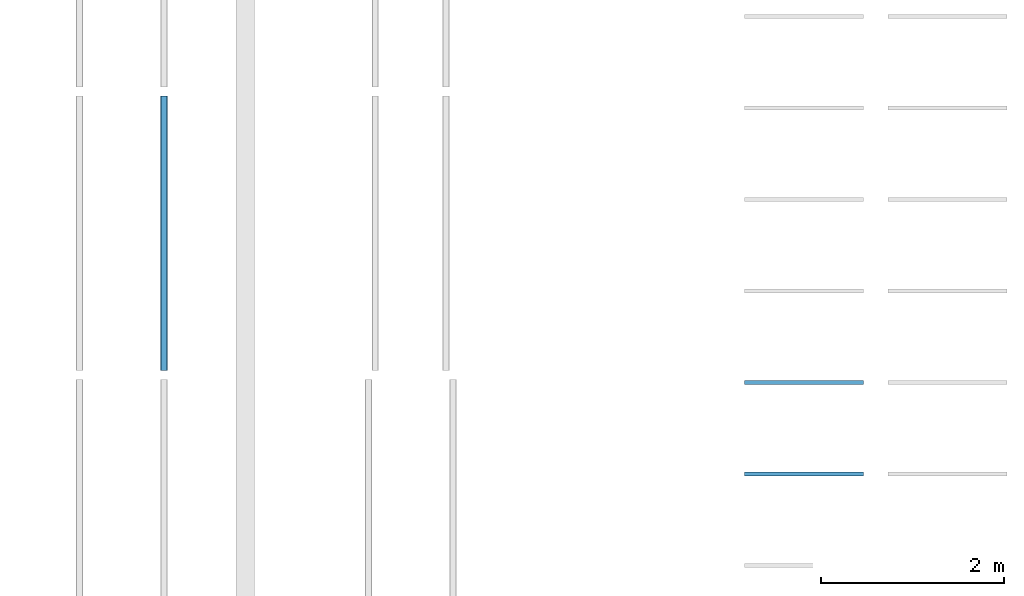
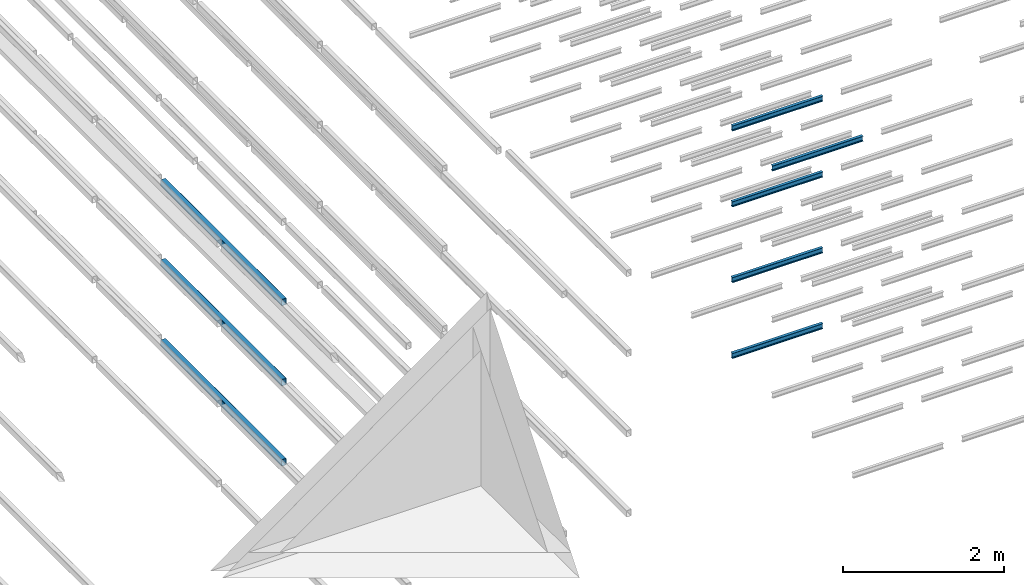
# One storey, part 34 of 290: 8 beams.
"""IFC2X3 building model written with IfcOpenShell, lengths in metres."""

from ifc_helpers import new_model, entity, si_unit, converted_unit, derived_unit, direction, frame, frame_2d, origin, place, context, subcontext, project, spatial, polyline, circle_curve, parameter, trimmed, segment, composite_curve, outline, extrude, material, type_object, element, save


model = new_model("IFC2X3")

# Units and contexts
model_context = context("Model", 3, precision=1e-05, world=origin(), true_north=direction((6.12303176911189e-17, 1.0)))
body_context = subcontext(model_context, "Body", "Model", "MODEL_VIEW")
ifc_project = project(units=[si_unit("LENGTHUNIT", "METRE"), si_unit("AREAUNIT", "SQUARE_METRE"), si_unit("VOLUMEUNIT", "CUBIC_METRE"), converted_unit("PLANEANGLEUNIT", "DEGREE", entity("IfcRatioMeasure", 0.0174532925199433), si_unit("PLANEANGLEUNIT", "RADIAN"), dimensions=[0, 0, 0, 0, 0, 0, 0]), si_unit("MASSUNIT", "GRAM", prefix="KILO"), derived_unit("MASSDENSITYUNIT", [(si_unit("MASSUNIT", "GRAM", prefix="KILO"), 1), (si_unit("LENGTHUNIT", "METRE"), -3)]), derived_unit("MOMENTOFINERTIAUNIT", [(si_unit("LENGTHUNIT", "METRE"), 4)]), si_unit("TIMEUNIT", "SECOND"), si_unit("FREQUENCYUNIT", "HERTZ"), si_unit("THERMODYNAMICTEMPERATUREUNIT", "DEGREE_CELSIUS"), derived_unit("THERMALTRANSMITTANCEUNIT", [(si_unit("MASSUNIT", "GRAM", prefix="KILO"), 1), (si_unit("THERMODYNAMICTEMPERATUREUNIT", "KELVIN"), -1), (si_unit("TIMEUNIT", "SECOND"), -3)]), derived_unit("VOLUMETRICFLOWRATEUNIT", [(si_unit("LENGTHUNIT", "METRE"), 3), (si_unit("TIMEUNIT", "SECOND"), -1)]), si_unit("ELECTRICCURRENTUNIT", "AMPERE"), si_unit("ELECTRICVOLTAGEUNIT", "VOLT"), si_unit("POWERUNIT", "WATT"), si_unit("FORCEUNIT", "NEWTON", prefix="KILO"), si_unit("ILLUMINANCEUNIT", "LUX"), si_unit("LUMINOUSFLUXUNIT", "LUMEN"), si_unit("LUMINOUSINTENSITYUNIT", "CANDELA"), derived_unit("USERDEFINED", [(si_unit("MASSUNIT", "GRAM", prefix="KILO"), -1), (si_unit("LENGTHUNIT", "METRE"), -2), (si_unit("TIMEUNIT", "SECOND"), 3), (si_unit("LUMINOUSFLUXUNIT", "LUMEN"), 1)]), derived_unit("LINEARVELOCITYUNIT", [(si_unit("LENGTHUNIT", "METRE"), 1), (si_unit("TIMEUNIT", "SECOND"), -1)]), si_unit("PRESSUREUNIT", "PASCAL"), derived_unit("USERDEFINED", [(si_unit("LENGTHUNIT", "METRE"), -2), (si_unit("MASSUNIT", "GRAM", prefix="KILO"), 1), (si_unit("TIMEUNIT", "SECOND"), -2)]), derived_unit("LINEARFORCEUNIT", [(si_unit("MASSUNIT", "GRAM", prefix="KILO"), 1), (si_unit("LENGTHUNIT", "METRE"), 1), (si_unit("TIMEUNIT", "SECOND"), -2), (si_unit("LENGTHUNIT", "METRE"), -1)]), derived_unit("PLANARFORCEUNIT", [(si_unit("MASSUNIT", "GRAM", prefix="KILO"), 1), (si_unit("LENGTHUNIT", "METRE"), 1), (si_unit("TIMEUNIT", "SECOND"), -2), (si_unit("LENGTHUNIT", "METRE"), -2)])], contexts=[model_context])

# Site, building, storey
site_placement = place(None, origin())
site = spatial("IfcSite", under=ifc_project, at=site_placement, Name="Default", CompositionType="ELEMENT")
building_placement = place(site_placement, origin())
building = spatial("IfcBuilding", under=site, at=building_placement, CompositionType="ELEMENT")
storey_placement = place(building_placement, frame((0.0, 0.0, 4.0)))
storey = spatial("IfcBuildingStorey", under=building, at=storey_placement, Name="01_OG", CompositionType="ELEMENT", Elevation=4.0)

# Beams
ifc_material_1 = material(Name="Metall - Baustahl S235 blau")
beam_type_1 = type_object("IfcBeamType", Name="RHS Träger (EN 10219-2):RHS 100 x 75 x 5", PredefinedType="NOTDEFINED")
beam_1_placement = place(storey_placement, frame((-178.465111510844, 27.148088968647, -1.2), z_axis=(0.0, 0.0, 1.0), x_axis=(0.0, 1.0, 0.0)))
element("IfcBeam", 1, at=beam_1_placement, inside=storey, type_object=beam_type_1, material=ifc_material_1, Name="RHS Träger (EN 10219-2):RHS 100 x 75 x 5", ObjectType="RHS Träger (EN 10219-2):RHS 100 x 75 x 5", context=body_context, shape_type="SweptSolid", body=[
    extrude(outline(composite_curve([segment(polyline([(-0.0400000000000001, -0.0374999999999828), (0.0400000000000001, -0.0374999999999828)]), True, "CONTINUOUS"), segment(trimmed(circle_curve(frame_2d((0.0400000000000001, -0.0274999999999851), x_axis=(0.0, 1.0)), 0.01), [parameter(180.0)], [parameter(270.0)], True, "PARAMETER"), True, "CONTINUOUS"), segment(polyline([(0.05, -0.0274999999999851), (0.05, 0.0274999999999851)]), True, "CONTINUOUS"), segment(trimmed(circle_curve(frame_2d((0.0400000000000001, 0.0274999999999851), x_axis=(0.0, 1.0)), 0.01), [parameter(270.0)], [parameter(4.07110999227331e-13)], True, "PARAMETER"), True, "CONTINUOUS"), segment(polyline([(0.0400000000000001, 0.0375000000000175), (-0.0400000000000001, 0.0375000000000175)]), True, "CONTINUOUS"), segment(trimmed(circle_curve(frame_2d((-0.0400000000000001, 0.0274999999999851), x_axis=(0.0, 1.0)), 0.01), [parameter(360.0)], [parameter(90.0000000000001)], True, "PARAMETER"), True, "CONTINUOUS"), segment(polyline([(-0.05, 0.0274999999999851), (-0.05, -0.0274999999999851)]), True, "CONTINUOUS"), segment(trimmed(circle_curve(frame_2d((-0.0400000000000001, -0.0274999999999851), x_axis=(0.0, 1.0)), 0.01), [parameter(90.0000000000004)], [parameter(180.0)], True, "PARAMETER"), True, "CONTINUOUS")], self_intersect=False), holes=[composite_curve([segment(trimmed(circle_curve(frame_2d((-0.0400000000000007, 0.0274999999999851), x_axis=(0.0, 1.0)), 0.005), [parameter(360.0)], [parameter(89.9999999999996)], True, "PARAMETER"), False, "CONTINUOUS"), segment(polyline([(-0.0400000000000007, 0.0325000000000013), (0.039999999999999, 0.0325000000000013)]), True, "CONTINUOUS"), segment(trimmed(circle_curve(frame_2d((0.039999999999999, 0.0274999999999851), x_axis=(0.0, 1.0)), 0.005), [parameter(270.0)], [parameter(0.0)], True, "PARAMETER"), False, "CONTINUOUS"), segment(polyline([(0.044999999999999, 0.0274999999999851), (0.044999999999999, -0.0274999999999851)]), True, "CONTINUOUS"), segment(trimmed(circle_curve(frame_2d((0.039999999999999, -0.0274999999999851), x_axis=(0.0, 1.0)), 0.005), [parameter(180.0)], [parameter(269.999999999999)], True, "PARAMETER"), False, "CONTINUOUS"), segment(polyline([(0.039999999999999, -0.0325000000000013), (-0.0400000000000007, -0.0325000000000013)]), True, "CONTINUOUS"), segment(trimmed(circle_curve(frame_2d((-0.0400000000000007, -0.0274999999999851), x_axis=(0.0, 1.0)), 0.005), [parameter(90.0000000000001)], [parameter(180.0)], True, "PARAMETER"), False, "CONTINUOUS"), segment(polyline([(-0.0450000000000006, -0.0274999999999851), (-0.0450000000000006, 0.0274999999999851)]), True, "CONTINUOUS")], self_intersect=False)]), frame((9.99999999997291e-05, -0.0375000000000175, -0.0500000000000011), z_axis=(1.0, 0.0, 0.0), x_axis=(0.0, 0.0, -1.0)), (0.0, 0.0, 1.0), 2.9998),
])
beam_2_placement = place(storey_placement, frame((-178.465111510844, 27.148088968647, 0.0150000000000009), z_axis=(0.0, 0.0, 1.0), x_axis=(0.0, 1.0, 0.0)))
element("IfcBeam", 2, at=beam_2_placement, inside=storey, type_object=beam_type_1, material=ifc_material_1, Name="RHS Träger (EN 10219-2):RHS 100 x 75 x 5", ObjectType="RHS Träger (EN 10219-2):RHS 100 x 75 x 5", context=body_context, shape_type="SweptSolid", body=[
    extrude(outline(composite_curve([segment(polyline([(-0.0400000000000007, -0.0374999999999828), (0.0399999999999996, -0.0374999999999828)]), True, "CONTINUOUS"), segment(trimmed(circle_curve(frame_2d((0.0399999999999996, -0.0274999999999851), x_axis=(0.0, 1.0)), 0.01), [parameter(180.0)], [parameter(270.0)], True, "PARAMETER"), True, "CONTINUOUS"), segment(polyline([(0.0499999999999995, -0.0274999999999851), (0.0499999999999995, 0.0274999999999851)]), True, "CONTINUOUS"), segment(trimmed(circle_curve(frame_2d((0.0399999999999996, 0.0274999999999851), x_axis=(0.0, 1.0)), 0.01), [parameter(270.0)], [parameter(4.07110999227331e-13)], True, "PARAMETER"), True, "CONTINUOUS"), segment(polyline([(0.0399999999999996, 0.0375000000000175), (-0.0400000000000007, 0.0375000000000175)]), True, "CONTINUOUS"), segment(trimmed(circle_curve(frame_2d((-0.0400000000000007, 0.0274999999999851), x_axis=(0.0, 1.0)), 0.01), [parameter(360.0)], [parameter(90.0000000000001)], True, "PARAMETER"), True, "CONTINUOUS"), segment(polyline([(-0.0500000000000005, 0.0274999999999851), (-0.0500000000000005, -0.0274999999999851)]), True, "CONTINUOUS"), segment(trimmed(circle_curve(frame_2d((-0.0400000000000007, -0.0274999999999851), x_axis=(0.0, 1.0)), 0.01), [parameter(90.0000000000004)], [parameter(180.0)], True, "PARAMETER"), True, "CONTINUOUS")], self_intersect=False), holes=[composite_curve([segment(trimmed(circle_curve(frame_2d((-0.0400000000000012, 0.0274999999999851), x_axis=(0.0, 1.0)), 0.005), [parameter(360.0)], [parameter(89.9999999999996)], True, "PARAMETER"), False, "CONTINUOUS"), segment(polyline([(-0.0400000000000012, 0.0325000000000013), (0.0399999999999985, 0.0325000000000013)]), True, "CONTINUOUS"), segment(trimmed(circle_curve(frame_2d((0.0399999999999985, 0.0274999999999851), x_axis=(0.0, 1.0)), 0.005), [parameter(270.0)], [parameter(0.0)], True, "PARAMETER"), False, "CONTINUOUS"), segment(polyline([(0.0449999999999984, 0.0274999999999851), (0.0449999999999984, -0.0274999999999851)]), True, "CONTINUOUS"), segment(trimmed(circle_curve(frame_2d((0.0399999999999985, -0.0274999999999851), x_axis=(0.0, 1.0)), 0.005), [parameter(180.0)], [parameter(269.999999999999)], True, "PARAMETER"), False, "CONTINUOUS"), segment(polyline([(0.0399999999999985, -0.0325000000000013), (-0.0400000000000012, -0.0325000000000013)]), True, "CONTINUOUS"), segment(trimmed(circle_curve(frame_2d((-0.0400000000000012, -0.0274999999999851), x_axis=(0.0, 1.0)), 0.005), [parameter(90.0000000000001)], [parameter(180.0)], True, "PARAMETER"), False, "CONTINUOUS"), segment(polyline([(-0.0450000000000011, -0.0274999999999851), (-0.0450000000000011, 0.0274999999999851)]), True, "CONTINUOUS")], self_intersect=False)]), frame((9.99999999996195e-05, -0.0375000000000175, -0.0500000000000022), z_axis=(1.0, 0.0, 0.0), x_axis=(0.0, 0.0, -1.0)), (0.0, 0.0, 1.0), 2.9998),
])
beam_3_placement = place(storey_placement, frame((-178.465111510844, 27.148088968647, 1.23), z_axis=(0.0, 0.0, 1.0), x_axis=(0.0, 1.0, 0.0)))
element("IfcBeam", 3, at=beam_3_placement, inside=storey, type_object=beam_type_1, material=ifc_material_1, Name="RHS Träger (EN 10219-2):RHS 100 x 75 x 5", ObjectType="RHS Träger (EN 10219-2):RHS 100 x 75 x 5", context=body_context, shape_type="SweptSolid", body=[
    extrude(outline(composite_curve([segment(polyline([(-0.0399999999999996, -0.0374999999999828), (0.0399999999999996, -0.0374999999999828)]), True, "CONTINUOUS"), segment(trimmed(circle_curve(frame_2d((0.0399999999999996, -0.0274999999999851), x_axis=(0.0, 1.0)), 0.01), [parameter(180.0)], [parameter(270.0)], True, "PARAMETER"), True, "CONTINUOUS"), segment(polyline([(0.0500000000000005, -0.0274999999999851), (0.0500000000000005, 0.0274999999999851)]), True, "CONTINUOUS"), segment(trimmed(circle_curve(frame_2d((0.0399999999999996, 0.0274999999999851), x_axis=(0.0, 1.0)), 0.01), [parameter(270.0)], [parameter(4.07110999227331e-13)], True, "PARAMETER"), True, "CONTINUOUS"), segment(polyline([(0.0399999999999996, 0.0375000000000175), (-0.0399999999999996, 0.0375000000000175)]), True, "CONTINUOUS"), segment(trimmed(circle_curve(frame_2d((-0.0399999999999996, 0.0274999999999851), x_axis=(0.0, 1.0)), 0.01), [parameter(360.0)], [parameter(90.0000000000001)], True, "PARAMETER"), True, "CONTINUOUS"), segment(polyline([(-0.0499999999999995, 0.0274999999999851), (-0.0499999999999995, -0.0274999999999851)]), True, "CONTINUOUS"), segment(trimmed(circle_curve(frame_2d((-0.0399999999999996, -0.0274999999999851), x_axis=(0.0, 1.0)), 0.01), [parameter(90.0000000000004)], [parameter(180.0)], True, "PARAMETER"), True, "CONTINUOUS")], self_intersect=False), holes=[composite_curve([segment(trimmed(circle_curve(frame_2d((-0.0400000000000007, 0.0274999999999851), x_axis=(0.0, 1.0)), 0.005), [parameter(360.0)], [parameter(89.9999999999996)], True, "PARAMETER"), False, "CONTINUOUS"), segment(polyline([(-0.0400000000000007, 0.0325000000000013), (0.0399999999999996, 0.0325000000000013)]), True, "CONTINUOUS"), segment(trimmed(circle_curve(frame_2d((0.0399999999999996, 0.0274999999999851), x_axis=(0.0, 1.0)), 0.005), [parameter(270.0)], [parameter(0.0)], True, "PARAMETER"), False, "CONTINUOUS"), segment(polyline([(0.0449999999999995, 0.0274999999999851), (0.0449999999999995, -0.0274999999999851)]), True, "CONTINUOUS"), segment(trimmed(circle_curve(frame_2d((0.0399999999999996, -0.0274999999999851), x_axis=(0.0, 1.0)), 0.005), [parameter(180.0)], [parameter(269.999999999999)], True, "PARAMETER"), False, "CONTINUOUS"), segment(polyline([(0.0399999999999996, -0.0325000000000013), (-0.0400000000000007, -0.0325000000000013)]), True, "CONTINUOUS"), segment(trimmed(circle_curve(frame_2d((-0.0400000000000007, -0.0274999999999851), x_axis=(0.0, 1.0)), 0.005), [parameter(90.0000000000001)], [parameter(180.0)], True, "PARAMETER"), False, "CONTINUOUS"), segment(polyline([(-0.0450000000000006, -0.0274999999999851), (-0.0450000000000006, 0.0274999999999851)]), True, "CONTINUOUS")], self_intersect=False)]), frame((9.99999999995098e-05, -0.0375000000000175, -0.0500000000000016), z_axis=(1.0, 0.0, 0.0), x_axis=(0.0, 0.0, -1.0)), (0.0, 0.0, 1.0), 2.9998),
])
ifc_material_2 = material(Name="Metall - Baustahl S235")
beam_type_2 = type_object("IfcBeamType", Name="IPN Träger:IPN 80", PredefinedType="NOTDEFINED")
beam_4_placement = place(storey_placement, frame((-170.780111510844, 27.036588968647, -1.73), z_axis=(0.0, 0.0, 1.0), x_axis=(-1.0, 0.0, 0.0)))
element("IfcBeam", 4, at=beam_4_placement, inside=storey, type_object=beam_type_2, material=ifc_material_2, Name="IPN Träger:IPN 80", ObjectType="IPN Träger:IPN 80", context=body_context, shape_type="SweptSolid", body=[
    extrude(outline(composite_curve([segment(polyline([(0.0375704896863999, -0.0210000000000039), (0.0399999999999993, -0.0210000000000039)]), True, "CONTINUOUS"), segment(polyline([(0.0399999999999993, -0.0210000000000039), (0.0399999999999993, 0.0209999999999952)]), True, "CONTINUOUS"), segment(polyline([(0.0399999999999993, 0.0209999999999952), (0.0375704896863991, 0.0209999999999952)]), True, "CONTINUOUS"), segment(trimmed(circle_curve(frame_2d((0.0375704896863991, 0.0186999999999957), x_axis=(0.0, 1.0)), 0.00230000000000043), [parameter(0.0)], [parameter(82.0299999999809)], True, "PARAMETER"), True, "CONTINUOUS"), segment(polyline([(0.0352927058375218, 0.0190189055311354), (0.0333732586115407, 0.00530924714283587)]), True, "CONTINUOUS"), segment(trimmed(circle_curve(frame_2d((0.0295109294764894, 0.00584999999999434), x_axis=(0.990340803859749, -0.138654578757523)), 0.00389999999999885), [parameter(277.969999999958)], [parameter(0.0)], True, "PARAMETER"), False, "CONTINUOUS"), segment(polyline([(0.0295109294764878, 0.00194999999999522), (-0.0295109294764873, 0.00194999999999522)]), True, "CONTINUOUS"), segment(trimmed(circle_curve(frame_2d((-0.0295109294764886, 0.00584999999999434), x_axis=(0.0, -1.0)), 0.00389999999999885), [parameter(277.969999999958)], [parameter(0.0)], True, "PARAMETER"), False, "CONTINUOUS"), segment(polyline([(-0.0333732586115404, 0.0053092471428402), (-0.0352927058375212, 0.0190189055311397)]), True, "CONTINUOUS"), segment(trimmed(circle_curve(frame_2d((-0.0375704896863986, 0.0186999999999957), x_axis=(0.990340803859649, 0.138654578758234)), 0.00230000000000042), [parameter(0.0)], [parameter(82.0299999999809)], True, "PARAMETER"), True, "CONTINUOUS"), segment(polyline([(-0.0375704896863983, 0.0209999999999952), (-0.0400000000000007, 0.0209999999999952)]), True, "CONTINUOUS"), segment(polyline([(-0.0400000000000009, 0.0209999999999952), (-0.0400000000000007, -0.0210000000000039)]), True, "CONTINUOUS"), segment(polyline([(-0.0400000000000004, -0.0210000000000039), (-0.0375704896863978, -0.0210000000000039)]), True, "CONTINUOUS"), segment(trimmed(circle_curve(frame_2d((-0.0375704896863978, -0.0187000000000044), x_axis=(0.0, -1.0)), 0.00230000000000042), [parameter(0.0)], [parameter(82.0299999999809)], True, "PARAMETER"), True, "CONTINUOUS"), segment(polyline([(-0.0352927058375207, -0.019018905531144), (-0.0333732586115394, -0.00530924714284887)]), True, "CONTINUOUS"), segment(trimmed(circle_curve(frame_2d((-0.0295109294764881, -0.005850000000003), x_axis=(-0.990340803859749, 0.138654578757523)), 0.00389999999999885), [parameter(277.969999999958)], [parameter(0.0)], True, "PARAMETER"), False, "CONTINUOUS"), segment(polyline([(-0.0295109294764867, -0.00195000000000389), (0.0295109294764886, -0.00195000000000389)]), True, "CONTINUOUS"), segment(trimmed(circle_curve(frame_2d((0.0295109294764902, -0.005850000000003), x_axis=(0.0, 1.0)), 0.0038999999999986), [parameter(277.969999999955)], [parameter(0.0)], True, "PARAMETER"), False, "CONTINUOUS"), segment(polyline([(0.0333732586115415, -0.00530924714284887), (0.0352927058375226, -0.0190189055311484)]), True, "CONTINUOUS"), segment(trimmed(circle_curve(frame_2d((0.0375704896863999, -0.0187000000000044), x_axis=(-0.990340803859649, -0.138654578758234)), 0.00230000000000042), [parameter(0.0)], [parameter(82.0299999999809)], True, "PARAMETER"), True, "CONTINUOUS")], self_intersect=False)), frame((0.00010000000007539, 0.0210000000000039, -0.0400000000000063), z_axis=(1.0, 0.0, 0.0), x_axis=(0.0, 0.0, -1.0)), (0.0, 0.0, 1.0), 1.29990000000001),
])
beam_5_placement = place(storey_placement, frame((-170.780111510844, 27.036588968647, -0.579999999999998), z_axis=(0.0, 0.0, 1.0), x_axis=(-1.0, 0.0, 0.0)))
element("IfcBeam", 5, at=beam_5_placement, inside=storey, type_object=beam_type_2, material=ifc_material_2, Name="IPN Träger:IPN 80", ObjectType="IPN Träger:IPN 80", context=body_context, shape_type="SweptSolid", body=[
    extrude(outline(composite_curve([segment(polyline([(0.0375704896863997, -0.0210000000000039), (0.039999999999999, -0.0210000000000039)]), True, "CONTINUOUS"), segment(polyline([(0.039999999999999, -0.0210000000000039), (0.039999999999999, 0.0209999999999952)]), True, "CONTINUOUS"), segment(polyline([(0.039999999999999, 0.0209999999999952), (0.0375704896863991, 0.0209999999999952)]), True, "CONTINUOUS"), segment(trimmed(circle_curve(frame_2d((0.0375704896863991, 0.0186999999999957), x_axis=(0.0, 1.0)), 0.00230000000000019), [parameter(0.0)], [parameter(82.02999999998)], True, "PARAMETER"), True, "CONTINUOUS"), segment(polyline([(0.0352927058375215, 0.0190189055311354), (0.0333732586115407, 0.00530924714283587)]), True, "CONTINUOUS"), segment(trimmed(circle_curve(frame_2d((0.0295109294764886, 0.00584999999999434), x_axis=(0.990340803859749, -0.138654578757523)), 0.00389999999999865), [parameter(277.969999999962)], [parameter(0.0)], True, "PARAMETER"), False, "CONTINUOUS"), segment(polyline([(0.0295109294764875, 0.00194999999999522), (-0.0295109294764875, 0.00194999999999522)]), True, "CONTINUOUS"), segment(trimmed(circle_curve(frame_2d((-0.0295109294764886, 0.00584999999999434), x_axis=(0.0, -1.0)), 0.00389999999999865), [parameter(277.969999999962)], [parameter(0.0)], True, "PARAMETER"), False, "CONTINUOUS"), segment(polyline([(-0.0333732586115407, 0.0053092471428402), (-0.0352927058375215, 0.0190189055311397)]), True, "CONTINUOUS"), segment(trimmed(circle_curve(frame_2d((-0.0375704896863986, 0.0186999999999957), x_axis=(0.990340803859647, 0.138654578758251)), 0.00230000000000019), [parameter(0.0)], [parameter(82.02999999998)], True, "PARAMETER"), True, "CONTINUOUS"), segment(polyline([(-0.0375704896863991, 0.0209999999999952), (-0.0400000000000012, 0.0209999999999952)]), True, "CONTINUOUS"), segment(polyline([(-0.0400000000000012, 0.0209999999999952), (-0.0400000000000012, -0.0210000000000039)]), True, "CONTINUOUS"), segment(polyline([(-0.0400000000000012, -0.0210000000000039), (-0.037570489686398, -0.0210000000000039)]), True, "CONTINUOUS"), segment(trimmed(circle_curve(frame_2d((-0.037570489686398, -0.0187000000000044), x_axis=(0.0, -1.0)), 0.00230000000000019), [parameter(0.0)], [parameter(82.02999999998)], True, "PARAMETER"), True, "CONTINUOUS"), segment(polyline([(-0.035292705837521, -0.019018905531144), (-0.0333732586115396, -0.00530924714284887)]), True, "CONTINUOUS"), segment(trimmed(circle_curve(frame_2d((-0.0295109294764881, -0.005850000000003), x_axis=(-0.990340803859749, 0.138654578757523)), 0.00389999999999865), [parameter(277.969999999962)], [parameter(0.0)], True, "PARAMETER"), False, "CONTINUOUS"), segment(polyline([(-0.029510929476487, -0.00195000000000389), (0.0295109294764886, -0.00195000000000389)]), True, "CONTINUOUS"), segment(trimmed(circle_curve(frame_2d((0.0295109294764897, -0.005850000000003), x_axis=(0.0, 1.0)), 0.00389999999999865), [parameter(277.969999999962)], [parameter(0.0)], True, "PARAMETER"), False, "CONTINUOUS"), segment(polyline([(0.0333732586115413, -0.00530924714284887), (0.0352927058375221, -0.0190189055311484)]), True, "CONTINUOUS"), segment(trimmed(circle_curve(frame_2d((0.0375704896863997, -0.0187000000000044), x_axis=(-0.990340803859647, -0.138654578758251)), 0.00230000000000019), [parameter(0.0)], [parameter(82.02999999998)], True, "PARAMETER"), True, "CONTINUOUS")], self_intersect=False)), frame((0.000100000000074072, 0.0210000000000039, -0.0400000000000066), z_axis=(1.0, 0.0, 0.0), x_axis=(0.0, 0.0, -1.0)), (0.0, 0.0, 1.0), 1.29990000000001),
])
beam_6_placement = place(storey_placement, frame((-170.780111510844, 27.036588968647, 0.570000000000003), z_axis=(0.0, 0.0, 1.0), x_axis=(-1.0, 0.0, 0.0)))
element("IfcBeam", 6, at=beam_6_placement, inside=storey, type_object=beam_type_2, material=ifc_material_2, Name="IPN Träger:IPN 80", ObjectType="IPN Träger:IPN 80", context=body_context, shape_type="SweptSolid", body=[
    extrude(outline(composite_curve([segment(polyline([(0.0375704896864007, -0.0210000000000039), (0.0400000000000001, -0.0210000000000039)]), True, "CONTINUOUS"), segment(polyline([(0.0400000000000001, -0.0210000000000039), (0.0400000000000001, 0.0209999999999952)]), True, "CONTINUOUS"), segment(polyline([(0.0400000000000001, 0.0209999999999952), (0.0375704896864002, 0.0209999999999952)]), True, "CONTINUOUS"), segment(trimmed(circle_curve(frame_2d((0.0375704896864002, 0.0186999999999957), x_axis=(0.0, 1.0)), 0.00230000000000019), [parameter(0.0)], [parameter(82.02999999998)], True, "PARAMETER"), True, "CONTINUOUS"), segment(polyline([(0.0352927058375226, 0.0190189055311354), (0.0333732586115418, 0.00530924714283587)]), True, "CONTINUOUS"), segment(trimmed(circle_curve(frame_2d((0.0295109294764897, 0.00584999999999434), x_axis=(0.990340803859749, -0.138654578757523)), 0.00389999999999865), [parameter(277.969999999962)], [parameter(0.0)], True, "PARAMETER"), False, "CONTINUOUS"), segment(polyline([(0.0295109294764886, 0.00194999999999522), (-0.0295109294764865, 0.00194999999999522)]), True, "CONTINUOUS"), segment(trimmed(circle_curve(frame_2d((-0.0295109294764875, 0.00584999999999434), x_axis=(0.0, -1.0)), 0.00389999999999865), [parameter(277.969999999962)], [parameter(0.0)], True, "PARAMETER"), False, "CONTINUOUS"), segment(polyline([(-0.0333732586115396, 0.0053092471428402), (-0.0352927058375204, 0.0190189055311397)]), True, "CONTINUOUS"), segment(trimmed(circle_curve(frame_2d((-0.0375704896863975, 0.0186999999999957), x_axis=(0.990340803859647, 0.138654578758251)), 0.00230000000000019), [parameter(0.0)], [parameter(82.02999999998)], True, "PARAMETER"), True, "CONTINUOUS"), segment(polyline([(-0.037570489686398, 0.0209999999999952), (-0.0400000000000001, 0.0209999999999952)]), True, "CONTINUOUS"), segment(polyline([(-0.0400000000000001, 0.0209999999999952), (-0.0400000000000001, -0.0210000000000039)]), True, "CONTINUOUS"), segment(polyline([(-0.0400000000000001, -0.0210000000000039), (-0.0375704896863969, -0.0210000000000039)]), True, "CONTINUOUS"), segment(trimmed(circle_curve(frame_2d((-0.0375704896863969, -0.0187000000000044), x_axis=(0.0, -1.0)), 0.00230000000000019), [parameter(0.0)], [parameter(82.02999999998)], True, "PARAMETER"), True, "CONTINUOUS"), segment(polyline([(-0.0352927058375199, -0.019018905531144), (-0.0333732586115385, -0.00530924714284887)]), True, "CONTINUOUS"), segment(trimmed(circle_curve(frame_2d((-0.029510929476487, -0.005850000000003), x_axis=(-0.990340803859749, 0.138654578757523)), 0.00389999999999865), [parameter(277.969999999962)], [parameter(0.0)], True, "PARAMETER"), False, "CONTINUOUS"), segment(polyline([(-0.0295109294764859, -0.00195000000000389), (0.0295109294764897, -0.00195000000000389)]), True, "CONTINUOUS"), segment(trimmed(circle_curve(frame_2d((0.0295109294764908, -0.005850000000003), x_axis=(0.0, 1.0)), 0.00389999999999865), [parameter(277.969999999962)], [parameter(0.0)], True, "PARAMETER"), False, "CONTINUOUS"), segment(polyline([(0.0333732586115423, -0.00530924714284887), (0.0352927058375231, -0.0190189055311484)]), True, "CONTINUOUS"), segment(trimmed(circle_curve(frame_2d((0.0375704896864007, -0.0187000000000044), x_axis=(-0.990340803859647, -0.138654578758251)), 0.00230000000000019), [parameter(0.0)], [parameter(82.02999999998)], True, "PARAMETER"), True, "CONTINUOUS")], self_intersect=False)), frame((0.000100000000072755, 0.0210000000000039, -0.0400000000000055), z_axis=(1.0, 0.0, 0.0), x_axis=(0.0, 0.0, -1.0)), (0.0, 0.0, 1.0), 1.29990000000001),
])
beam_7_placement = place(storey_placement, frame((-170.780111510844, 27.036588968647, 1.72), z_axis=(0.0, 0.0, 1.0), x_axis=(-1.0, 0.0, 0.0)))
element("IfcBeam", 7, at=beam_7_placement, inside=storey, type_object=beam_type_2, material=ifc_material_2, Name="IPN Träger:IPN 80", ObjectType="IPN Träger:IPN 80", context=body_context, shape_type="SweptSolid", body=[
    extrude(outline(composite_curve([segment(polyline([(0.0375704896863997, -0.0210000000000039), (0.0399999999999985, -0.0210000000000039)]), True, "CONTINUOUS"), segment(polyline([(0.0399999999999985, -0.0210000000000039), (0.0399999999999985, 0.0209999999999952)]), True, "CONTINUOUS"), segment(polyline([(0.0399999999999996, 0.0209999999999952), (0.0375704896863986, 0.0209999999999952)]), True, "CONTINUOUS"), segment(trimmed(circle_curve(frame_2d((0.0375704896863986, 0.0186999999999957), x_axis=(0.0, 1.0)), 0.00230000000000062), [parameter(0.0)], [parameter(82.0299999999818)], True, "PARAMETER"), True, "CONTINUOUS"), segment(polyline([(0.0352927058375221, 0.0190189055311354), (0.0333732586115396, 0.00530924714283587)]), True, "CONTINUOUS"), segment(trimmed(circle_curve(frame_2d((0.0295109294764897, 0.00584999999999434), x_axis=(0.990340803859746, -0.138654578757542)), 0.00389999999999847), [parameter(277.969999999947)], [parameter(0.0)], True, "PARAMETER"), False, "CONTINUOUS"), segment(polyline([(0.0295109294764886, 0.00194999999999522), (-0.0295109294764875, 0.00194999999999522)]), True, "CONTINUOUS"), segment(trimmed(circle_curve(frame_2d((-0.0295109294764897, 0.00584999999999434), x_axis=(0.0, -1.0)), 0.00389999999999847), [parameter(277.969999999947)], [parameter(0.0)], True, "PARAMETER"), False, "CONTINUOUS"), segment(polyline([(-0.0333732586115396, 0.0053092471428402), (-0.0352927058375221, 0.0190189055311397)]), True, "CONTINUOUS"), segment(trimmed(circle_curve(frame_2d((-0.0375704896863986, 0.0186999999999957), x_axis=(0.990340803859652, 0.138654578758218)), 0.00230000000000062), [parameter(0.0)], [parameter(82.0299999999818)], True, "PARAMETER"), True, "CONTINUOUS"), segment(polyline([(-0.0375704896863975, 0.0209999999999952), (-0.0400000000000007, 0.0209999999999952)]), True, "CONTINUOUS"), segment(polyline([(-0.0400000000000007, 0.0209999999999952), (-0.0400000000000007, -0.0210000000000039)]), True, "CONTINUOUS"), segment(polyline([(-0.0400000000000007, -0.0210000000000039), (-0.0375704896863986, -0.0210000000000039)]), True, "CONTINUOUS"), segment(trimmed(circle_curve(frame_2d((-0.0375704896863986, -0.0187000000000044), x_axis=(0.0, -1.0)), 0.00230000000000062), [parameter(0.0)], [parameter(82.0299999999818)], True, "PARAMETER"), True, "CONTINUOUS"), segment(polyline([(-0.035292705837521, -0.019018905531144), (-0.0333732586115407, -0.00530924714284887)]), True, "CONTINUOUS"), segment(trimmed(circle_curve(frame_2d((-0.0295109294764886, -0.005850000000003), x_axis=(-0.990340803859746, 0.138654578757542)), 0.00389999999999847), [parameter(277.969999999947)], [parameter(0.0)], True, "PARAMETER"), False, "CONTINUOUS"), segment(polyline([(-0.0295109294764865, -0.00195000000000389), (0.0295109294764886, -0.00195000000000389)]), True, "CONTINUOUS"), segment(trimmed(circle_curve(frame_2d((0.0295109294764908, -0.005850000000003), x_axis=(0.0, 1.0)), 0.00389999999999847), [parameter(277.969999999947)], [parameter(0.0)], True, "PARAMETER"), False, "CONTINUOUS"), segment(polyline([(0.0333732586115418, -0.00530924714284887), (0.0352927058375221, -0.0190189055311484)]), True, "CONTINUOUS"), segment(trimmed(circle_curve(frame_2d((0.0375704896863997, -0.0187000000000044), x_axis=(-0.990340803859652, -0.138654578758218)), 0.00230000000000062), [parameter(0.0)], [parameter(82.0299999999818)], True, "PARAMETER"), True, "CONTINUOUS")], self_intersect=False)), frame((0.000100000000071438, 0.0210000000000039, -0.040000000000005), z_axis=(1.0, 0.0, 0.0), x_axis=(0.0, 0.0, -1.0)), (0.0, 0.0, 1.0), 1.29990000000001),
])
beam_8_placement = place(storey_placement, frame((-170.780111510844, 26.036588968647, 1.72), z_axis=(0.0, 0.0, 1.0), x_axis=(-1.0, 0.0, 0.0)))
element("IfcBeam", 8, at=beam_8_placement, inside=storey, type_object=beam_type_2, material=ifc_material_2, Name="IPN Träger:IPN 80", ObjectType="IPN Träger:IPN 80", context=body_context, shape_type="SweptSolid", body=[
    extrude(outline(composite_curve([segment(polyline([(0.0375704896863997, -0.0209999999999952), (0.0399999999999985, -0.0209999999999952)]), True, "CONTINUOUS"), segment(polyline([(0.0399999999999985, -0.0209999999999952), (0.0399999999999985, 0.0210000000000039)]), True, "CONTINUOUS"), segment(polyline([(0.0399999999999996, 0.0210000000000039), (0.0375704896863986, 0.0210000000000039)]), True, "CONTINUOUS"), segment(trimmed(circle_curve(frame_2d((0.0375704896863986, 0.0187000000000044), x_axis=(0.0, 1.0)), 0.00230000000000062), [parameter(0.0)], [parameter(82.0299999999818)], True, "PARAMETER"), True, "CONTINUOUS"), segment(polyline([(0.0352927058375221, 0.019018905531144), (0.0333732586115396, 0.00530924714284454)]), True, "CONTINUOUS"), segment(trimmed(circle_curve(frame_2d((0.0295109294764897, 0.005850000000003), x_axis=(0.990340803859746, -0.138654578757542)), 0.00389999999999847), [parameter(277.969999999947)], [parameter(0.0)], True, "PARAMETER"), False, "CONTINUOUS"), segment(polyline([(0.0295109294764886, 0.00195000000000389), (-0.0295109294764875, 0.00195000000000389)]), True, "CONTINUOUS"), segment(trimmed(circle_curve(frame_2d((-0.0295109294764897, 0.005850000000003), x_axis=(0.0, -1.0)), 0.00389999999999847), [parameter(277.969999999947)], [parameter(0.0)], True, "PARAMETER"), False, "CONTINUOUS"), segment(polyline([(-0.0333732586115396, 0.00530924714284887), (-0.0352927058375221, 0.0190189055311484)]), True, "CONTINUOUS"), segment(trimmed(circle_curve(frame_2d((-0.0375704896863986, 0.0187000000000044), x_axis=(0.990340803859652, 0.138654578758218)), 0.00230000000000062), [parameter(0.0)], [parameter(82.0299999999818)], True, "PARAMETER"), True, "CONTINUOUS"), segment(polyline([(-0.0375704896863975, 0.0210000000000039), (-0.0400000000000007, 0.0210000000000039)]), True, "CONTINUOUS"), segment(polyline([(-0.0400000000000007, 0.0210000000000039), (-0.0400000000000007, -0.0209999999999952)]), True, "CONTINUOUS"), segment(polyline([(-0.0400000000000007, -0.0209999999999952), (-0.0375704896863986, -0.0209999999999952)]), True, "CONTINUOUS"), segment(trimmed(circle_curve(frame_2d((-0.0375704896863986, -0.0186999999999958), x_axis=(0.0, -1.0)), 0.00230000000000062), [parameter(0.0)], [parameter(82.0299999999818)], True, "PARAMETER"), True, "CONTINUOUS"), segment(polyline([(-0.035292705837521, -0.0190189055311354), (-0.0333732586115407, -0.00530924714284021)]), True, "CONTINUOUS"), segment(trimmed(circle_curve(frame_2d((-0.0295109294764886, -0.00584999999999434), x_axis=(-0.990340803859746, 0.138654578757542)), 0.00389999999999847), [parameter(277.969999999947)], [parameter(0.0)], True, "PARAMETER"), False, "CONTINUOUS"), segment(polyline([(-0.0295109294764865, -0.00194999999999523), (0.0295109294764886, -0.00194999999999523)]), True, "CONTINUOUS"), segment(trimmed(circle_curve(frame_2d((0.0295109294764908, -0.00584999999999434), x_axis=(0.0, 1.0)), 0.00389999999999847), [parameter(277.969999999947)], [parameter(0.0)], True, "PARAMETER"), False, "CONTINUOUS"), segment(polyline([(0.0333732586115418, -0.00530924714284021), (0.0352927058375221, -0.0190189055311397)]), True, "CONTINUOUS"), segment(trimmed(circle_curve(frame_2d((0.0375704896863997, -0.0186999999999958), x_axis=(-0.990340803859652, -0.138654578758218)), 0.00230000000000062), [parameter(0.0)], [parameter(82.0299999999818)], True, "PARAMETER"), True, "CONTINUOUS")], self_intersect=False)), frame((0.000100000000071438, 0.0209999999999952, -0.040000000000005), z_axis=(1.0, 0.0, 0.0), x_axis=(0.0, 0.0, -1.0)), (0.0, 0.0, 1.0), 1.29990000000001),
])

save(model, "model.ifc")
